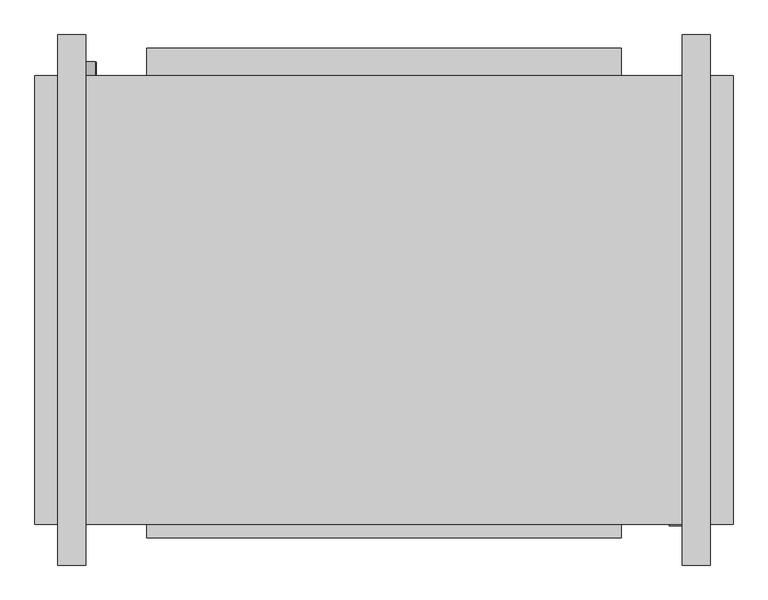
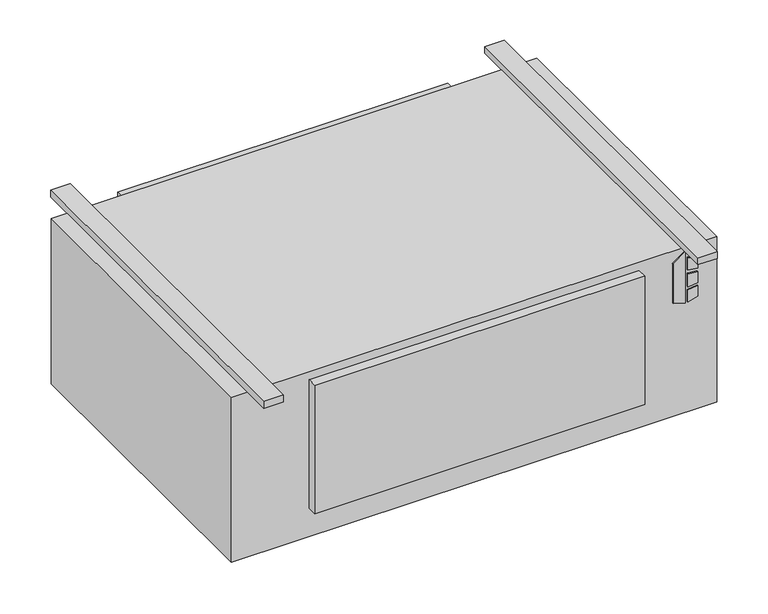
"""IFC4 building model written with IfcOpenShell, lengths in millimetres: proxy geometry, Concealed_High_Capacity_Horizontal_Cabinet_Fan_Coil_Unit_-_HXY_-_IEC_-_2-Pipe_Cool-EHeat_LH_2022 : Size 14 - 277v/60Hz/1Ph - 6 Row 10.0kW."""

from ifc_helpers import new_model, si_unit, point, frame, frame_2d, origin, origin_with_axes, place, context, project, spatial, polyline, circle_curve, trimmed, segment, composite_curve, outline, extrude, source, transform, mapped, element, save


def mechanical_equipment_0d51c659(model_context):
    return source(origin(), model_context, "Body", "SweptSolid", [
        extrude(outline(polyline([(-142.4519297, 671.5868862), (-152.4, 703.7602728), (-10.2290756, 703.7602728), (-33.2510817, 671.5868862), (-142.4519297, 671.5868862)])), frame((0.0, -649.2875, 0.0), z_axis=(0.0, 1.0, 0.0), x_axis=(0.0, 0.0, 1.0)), (0.0, 0.0, 1.0), 3.175),
        extrude(outline(polyline([(-63.4526443, 710.5186058), (-66.6550368, 736.6), (-37.4261958, 736.6), (-29.3617807, 710.5186058), (-63.4526443, 710.5186058)])), frame((0.0, -649.2875, 0.0), z_axis=(0.0, 1.0, 0.0), x_axis=(0.0, 0.0, 1.0)), (0.0, 0.0, 1.0), 3.175),
        extrude(outline(polyline([(-115.3161712, 736.6), (-118.9816721, 710.5186058), (-152.4, 710.5186058), (-143.7657628, 736.6), (-115.3161712, 736.6)])), frame((0.0, -649.2875, 0.0), z_axis=(0.0, 1.0, 0.0), x_axis=(0.0, 0.0, 1.0)), (0.0, 0.0, 1.0), 3.175),
        extrude(outline(polyline([(-76.0010097, 736.6), (-73.7191834, 710.5186058), (-109.6567319, 710.5186058), (-106.9154669, 736.6), (-76.0010097, 736.6)])), frame((0.0, -649.2875, 0.0), z_axis=(0.0, 1.0, 0.0), x_axis=(0.0, 0.0, 1.0)), (0.0, 0.0, 1.0), 3.175),
        extrude(outline(composite_curve([segment(trimmed(circle_curve(frame_2d((-406.4, -381.0)), 9.525), [point((-406.4, -390.525))], [point((-406.4, -371.475))], False, "CARTESIAN"), True, "CONTINUOUS"), segment(trimmed(circle_curve(frame_2d((-406.4, -381.0)), 9.525), [point((-406.4, -371.475))], [point((-406.4, -390.525))], False, "CARTESIAN"), True, "CONTINUOUS")], self_intersect=False)), frame((0.0, 169.8625, 0.0), z_axis=(0.0, 1.0, 0.0), x_axis=(0.0, 0.0, 1.0)), (0.0, 0.0, 1.0), 25.4),
        extrude(outline(composite_curve([segment(trimmed(circle_curve(frame_2d((-330.2, -381.0)), 7.9375), [point((-330.2, -388.9375))], [point((-330.2, -373.0625))], False, "CARTESIAN"), True, "CONTINUOUS"), segment(trimmed(circle_curve(frame_2d((-330.2, -381.0)), 7.9375), [point((-330.2, -373.0625))], [point((-330.2, -388.9375))], False, "CARTESIAN"), True, "CONTINUOUS")], self_intersect=False)), frame((0.0, 169.8625, 0.0), z_axis=(0.0, 1.0, 0.0), x_axis=(0.0, 0.0, 1.0)), (0.0, 0.0, 1.0), 25.4),
        extrude(outline(composite_curve([segment(trimmed(circle_curve(frame_2d((-254.0, -381.0)), 7.9375), [point((-254.0, -388.9375))], [point((-254.0, -373.0625))], False, "CARTESIAN"), True, "CONTINUOUS"), segment(trimmed(circle_curve(frame_2d((-254.0, -381.0)), 7.9375), [point((-254.0, -373.0625))], [point((-254.0, -388.9375))], False, "CARTESIAN"), True, "CONTINUOUS")], self_intersect=False)), frame((0.0, 169.8625, 0.0), z_axis=(0.0, 1.0, 0.0), x_axis=(0.0, 0.0, 1.0)), (0.0, 0.0, 1.0), 25.4),
        extrude(outline(polyline([(787.4, 169.8625), (787.4, -646.1125), (-482.6, -646.1125), (-482.6, 169.8625), (787.4, 169.8625)])), frame((0.0, 0.0, -457.2), z_axis=(0.0, 0.0, 1.0), x_axis=(1.0, 0.0, 0.0)), (0.0, 0.0, 1.0), 457.2),
        extrude(outline(polyline([(-279.4, 220.6625), (584.2, 220.6625), (584.2, 169.8625), (-279.4, 169.8625), (-279.4, 220.6625)])), frame((0.0, 0.0, -377.825), z_axis=(0.0, 0.0, 1.0), x_axis=(1.0, 0.0, 0.0)), (0.0, 0.0, 1.0), 349.25),
        extrude(outline(polyline([(-390.525, 244.475), (-390.525, -720.725), (-441.325, -720.725), (-441.325, 244.475), (-390.525, 244.475)])), origin_with_axes(), (0.0, 0.0, 1.0), 19.05),
        extrude(outline(polyline([(746.125, 244.475), (746.125, -720.725), (695.325, -720.725), (695.325, 244.475), (746.125, 244.475)])), origin_with_axes(), (0.0, 0.0, 1.0), 19.05),
        extrude(outline(polyline([(584.2, -671.5125), (-279.4, -671.5125), (-279.4, -646.1125), (584.2, -646.1125), (584.2, -671.5125)])), frame((0.0, 0.0, -377.825), z_axis=(0.0, 0.0, 1.0), x_axis=(1.0, 0.0, 0.0)), (0.0, 0.0, 1.0), 355.6),
    ])


if __name__ == "__main__":
    model = new_model("IFC4")
    model_context = context("Model", 3, world=origin())
    ifc_project = project(units=[si_unit("LENGTHUNIT", "METRE", prefix="MILLI")], contexts=[model_context])
    site = spatial("IfcSite", under=ifc_project)
    building = spatial("IfcBuilding", under=site)
    placement = place(None, origin())
    mechanical_equipment_shape = mechanical_equipment_0d51c659(model_context)
    element("IfcBuildingElementProxy", 1, Name="Concealed_High_Capacity_Horizontal_Cabinet_Fan_Coil_Unit_-_HXY_-_IEC_-_2-Pipe_Cool-EHeat_LH_2022 : Size 14 - 277v/60Hz/1Ph - 6 Row 10.0kW", ObjectType="Concealed_High_Capacity_Horizontal_Cabinet_Fan_Coil_Unit_-_HXY_-_IEC_-_2-Pipe_Cool-EHeat_LH_2022 : Size 14 - 277v/60Hz/1Ph - 6 Row 10.0kW", at=placement, inside=building, context=model_context, shape_type="MappedRepresentation", body=[
        mapped(mechanical_equipment_shape, transform((0.0, 0.0, 0.0), x_axis=(1.0, 0.0, 0.0), y_axis=(0.0, 1.0, 0.0), z_axis=(0.0, 0.0, 1.0))),
    ])
    save(model, "model.ifc")
